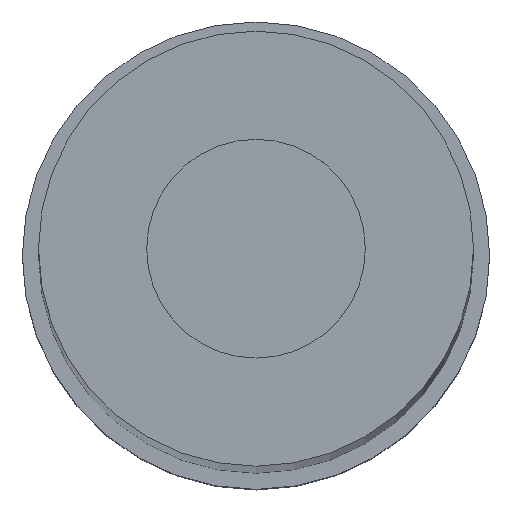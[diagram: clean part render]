
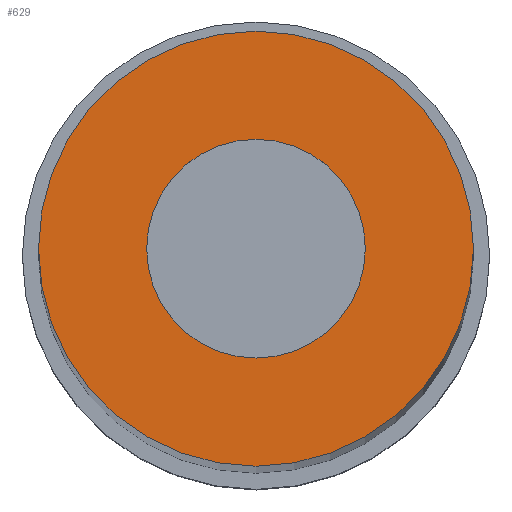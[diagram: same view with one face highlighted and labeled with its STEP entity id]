
A CAD part, top view. The second image highlights one B-rep face of the part: STEP entity #629.
In plain terms, the highlighted planar face has unit normal (0, 0, 1).
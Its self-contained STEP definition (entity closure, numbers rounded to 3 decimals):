
#177=CARTESIAN_POINT('',(0.,0.,15.));
#178=DIRECTION('',(0.,0.,1.));
#179=DIRECTION('',(-1.,0.,0.));
#180=AXIS2_PLACEMENT_3D('',#177,#178,#179);
#185=CARTESIAN_POINT('',(0.,0.,15.));
#186=DIRECTION('',(0.,0.,1.));
#187=DIRECTION('',(1.,0.,0.));
#188=AXIS2_PLACEMENT_3D('',#185,#186,#187);
#193=CARTESIAN_POINT('',(0.,0.,15.));
#194=DIRECTION('',(0.,0.,-1.));
#195=DIRECTION('',(-1.,0.,0.));
#196=AXIS2_PLACEMENT_3D('',#193,#194,#195);
#201=CARTESIAN_POINT('',(0.,0.,15.));
#202=DIRECTION('',(0.,0.,-1.));
#203=DIRECTION('',(1.,0.,0.));
#204=AXIS2_PLACEMENT_3D('',#201,#202,#203);
#408=CARTESIAN_POINT('',(-0.75,0.,15.));
#409=CARTESIAN_POINT('',(0.75,0.,15.));
#410=VERTEX_POINT('',#408);
#411=VERTEX_POINT('',#409);
#414=CARTESIAN_POINT('',(-0.377,0.,15.));
#415=CARTESIAN_POINT('',(0.377,0.,15.));
#416=VERTEX_POINT('',#414);
#417=VERTEX_POINT('',#415);
#613=CARTESIAN_POINT('',(0.,0.,15.));
#614=DIRECTION('',(0.,0.,1.));
#615=DIRECTION('',(1.,0.,0.));
#616=AXIS2_PLACEMENT_3D('',#613,#614,#615);
#617=PLANE('',#616);
#619=ORIENTED_EDGE('',*,*,#618,.F.);
#620=ORIENTED_EDGE('',*,*,#603,.F.);
#621=EDGE_LOOP('',(#619,#620));
#622=FACE_OUTER_BOUND('',#621,.F.);
#624=ORIENTED_EDGE('',*,*,#623,.F.);
#626=ORIENTED_EDGE('',*,*,#625,.F.);
#627=EDGE_LOOP('',(#624,#626));
#628=FACE_BOUND('',#627,.F.);
#629=ADVANCED_FACE('',(#622,#628),#617,.T.);
#181=CIRCLE('',#180,0.75);
#189=CIRCLE('',#188,0.75);
#197=CIRCLE('',#196,0.377);
#205=CIRCLE('',#204,0.377);
#603=EDGE_CURVE('',#411,#410,#189,.T.);
#618=EDGE_CURVE('',#410,#411,#181,.T.);
#623=EDGE_CURVE('',#416,#417,#197,.T.);
#625=EDGE_CURVE('',#417,#416,#205,.T.);
